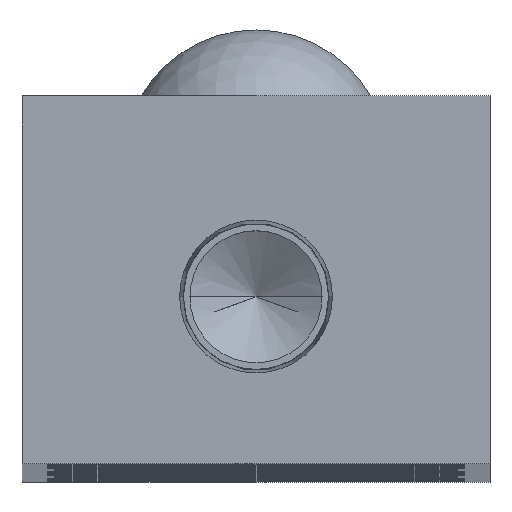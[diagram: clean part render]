
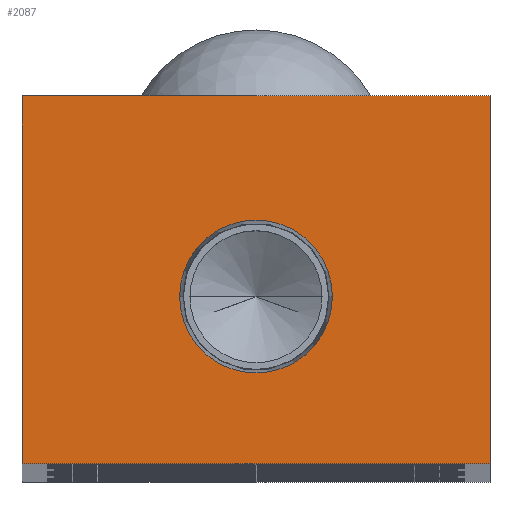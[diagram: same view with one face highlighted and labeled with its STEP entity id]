
A CAD part, top view. The second image highlights one B-rep face of the part: STEP entity #2087.
In plain terms, the highlighted planar face has unit normal (0, 0, 1).
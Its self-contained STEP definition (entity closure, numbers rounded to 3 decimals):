
#99 = VERTEX_POINT ( 'NONE', #3977 ) ;
#192 = AXIS2_PLACEMENT_3D ( 'NONE', #6158, #16626, #7664 ) ;
#357 = LINE ( 'NONE', #10343, #4327 ) ;
#1217 = ORIENTED_EDGE ( 'NONE', *, *, #18804, .F. ) ;
#1966 = EDGE_CURVE ( 'NONE', #13208, #14222, #16539, .T. ) ;
#2055 = CARTESIAN_POINT ( 'NONE',  ( 14., 0., 0. ) ) ;
#2087 = ADVANCED_FACE ( 'NONE', ( #3183, #7180 ), #8337, .F. ) ;
#2867 = DIRECTION ( 'NONE',  ( -1., 0., 0. ) ) ;
#2983 = VECTOR ( 'NONE', #8030, 1000. ) ;
#3183 = FACE_BOUND ( 'NONE', #5016, .T. ) ;
#3293 = EDGE_CURVE ( 'NONE', #17578, #4069, #357, .T. ) ;
#3977 = CARTESIAN_POINT ( 'NONE',  ( 14., 22., 0. ) ) ;
#4069 = VERTEX_POINT ( 'NONE', #10751 ) ;
#4327 = VECTOR ( 'NONE', #16371, 1000. ) ;
#4552 = VERTEX_POINT ( 'NONE', #6013 ) ;
#4926 = LINE ( 'NONE', #2055, #16389 ) ;
#5016 = EDGE_LOOP ( 'NONE', ( #13877, #1217 ) ) ;
#6013 = CARTESIAN_POINT ( 'NONE',  ( -14., 22., 0. ) ) ;
#6158 = CARTESIAN_POINT ( 'NONE',  ( 0., 10., 0. ) ) ;
#6706 = EDGE_CURVE ( 'NONE', #4069, #99, #4926, .T. ) ;
#7180 = FACE_OUTER_BOUND ( 'NONE', #13188, .T. ) ;
#7664 = DIRECTION ( 'NONE',  ( 1., 0., 0. ) ) ;
#7916 = EDGE_CURVE ( 'NONE', #99, #4552, #11209, .T. ) ;
#8011 = DIRECTION ( 'NONE',  ( 0., 0., 1. ) ) ;
#8030 = DIRECTION ( 'NONE',  ( 0., -1., 0. ) ) ;
#8191 = EDGE_CURVE ( 'NONE', #4552, #17578, #15406, .T. ) ;
#8337 = PLANE ( 'NONE',  #13302 ) ;
#9857 = DIRECTION ( 'NONE',  ( -1., 0., 0. ) ) ;
#10343 = CARTESIAN_POINT ( 'NONE',  ( -14., 0., 0. ) ) ;
#10751 = CARTESIAN_POINT ( 'NONE',  ( 14., 0., 0. ) ) ;
#10960 = ORIENTED_EDGE ( 'NONE', *, *, #3293, .T. ) ;
#11010 = DIRECTION ( 'NONE',  ( 0., 1., 0. ) ) ;
#11122 = ORIENTED_EDGE ( 'NONE', *, *, #8191, .T. ) ;
#11209 = LINE ( 'NONE', #17721, #18654 ) ;
#12039 = CARTESIAN_POINT ( 'NONE',  ( 4.574, 10., 0. ) ) ;
#12817 = CARTESIAN_POINT ( 'NONE',  ( 0., 0., 0. ) ) ;
#13188 = EDGE_LOOP ( 'NONE', ( #11122, #10960, #15766, #14362 ) ) ;
#13208 = VERTEX_POINT ( 'NONE', #12039 ) ;
#13302 = AXIS2_PLACEMENT_3D ( 'NONE', #12817, #18775, #9857 ) ;
#13877 = ORIENTED_EDGE ( 'NONE', *, *, #1966, .F. ) ;
#14215 = CIRCLE ( 'NONE', #192, 4.574 ) ;
#14222 = VERTEX_POINT ( 'NONE', #14840 ) ;
#14362 = ORIENTED_EDGE ( 'NONE', *, *, #7916, .T. ) ;
#14840 = CARTESIAN_POINT ( 'NONE',  ( -4.574, 10., 0. ) ) ;
#15406 = LINE ( 'NONE', #18476, #2983 ) ;
#15766 = ORIENTED_EDGE ( 'NONE', *, *, #6706, .T. ) ;
#16371 = DIRECTION ( 'NONE',  ( 1., 0., 0. ) ) ;
#16389 = VECTOR ( 'NONE', #11010, 1000. ) ;
#16539 = CIRCLE ( 'NONE', #17644, 4.574 ) ;
#16626 = DIRECTION ( 'NONE',  ( 0., 0., 1. ) ) ;
#16989 = CARTESIAN_POINT ( 'NONE',  ( 0., 10., 0. ) ) ;
#17578 = VERTEX_POINT ( 'NONE', #19126 ) ;
#17644 = AXIS2_PLACEMENT_3D ( 'NONE', #16989, #8011, #18460 ) ;
#17721 = CARTESIAN_POINT ( 'NONE',  ( -14., 22., 0. ) ) ;
#18460 = DIRECTION ( 'NONE',  ( 1., 0., 0. ) ) ;
#18476 = CARTESIAN_POINT ( 'NONE',  ( -14., 0., 0. ) ) ;
#18654 = VECTOR ( 'NONE', #2867, 1000. ) ;
#18775 = DIRECTION ( 'NONE',  ( 0., 0., -1. ) ) ;
#18804 = EDGE_CURVE ( 'NONE', #14222, #13208, #14215, .T. ) ;
#19126 = CARTESIAN_POINT ( 'NONE',  ( -14., 0., 0. ) ) ;
